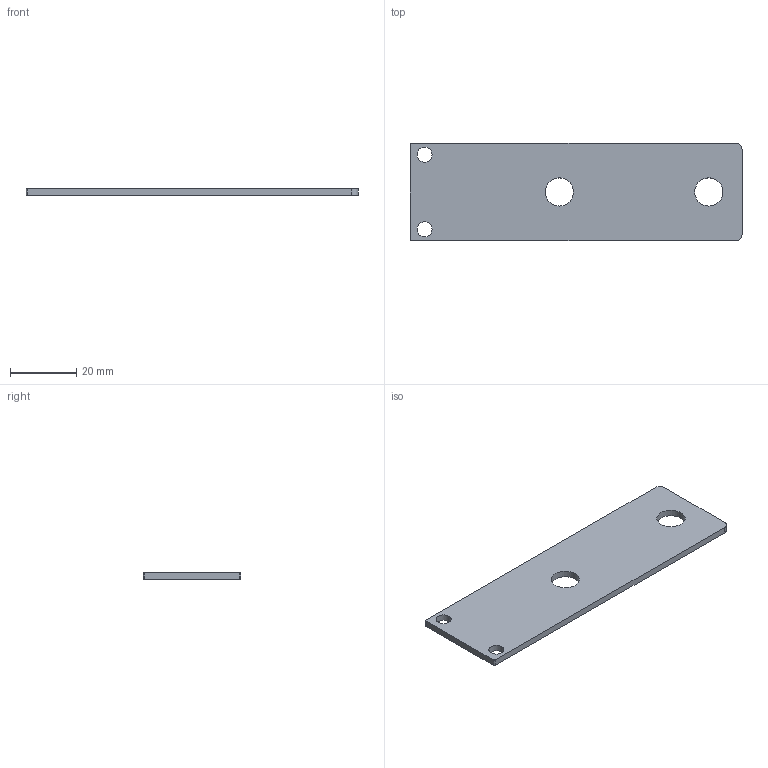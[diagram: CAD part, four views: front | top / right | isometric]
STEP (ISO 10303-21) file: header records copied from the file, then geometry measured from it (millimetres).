
FILE_DESCRIPTION(/* description */ ('Eindaanslag bracket GR40 SGCT'),/* implementation_level */ '2;1');
FILE_NAME(/* name */ 'SG1200080001.stp',/* time_stamp */ '2024-02-07T14:07:23+01:00',/* author */ ('r.biemans'),/* organization */ ('BCK Holland b.v.'),/* preprocessor_version */ 'ST-DEVELOPER v19.2',/* originating_system */ 'Autodesk Inventor 2023',/* authorisation */ '');
FILE_SCHEMA (('AUTOMOTIVE_DESIGN { 1 0 10303 214 3 1 1 }'));
Length unit declared in the file: millimetre
Products named in the file (1): SG1200080001
Bounding box: 100 x 29.5 x 2 mm (x, y, z)
Volume: 5605.8 mm3; surface area: 6282.8 mm2
Topology: 1 solids, 1 shells, 14 faces, 36 edges, 24 vertices
Faces by surface type: cylinder 8, plane 6
Full cylindrical faces by diameter (mm): 4.5 x2, 8.5 x2
Entity records: 493 total; most frequent: DIRECTION 82, CARTESIAN_POINT 75, ORIENTED_EDGE 72, EDGE_CURVE 36, AXIS2_PLACEMENT_3D 31, VERTEX_POINT 24, EDGE_LOOP 22, LINE 20
